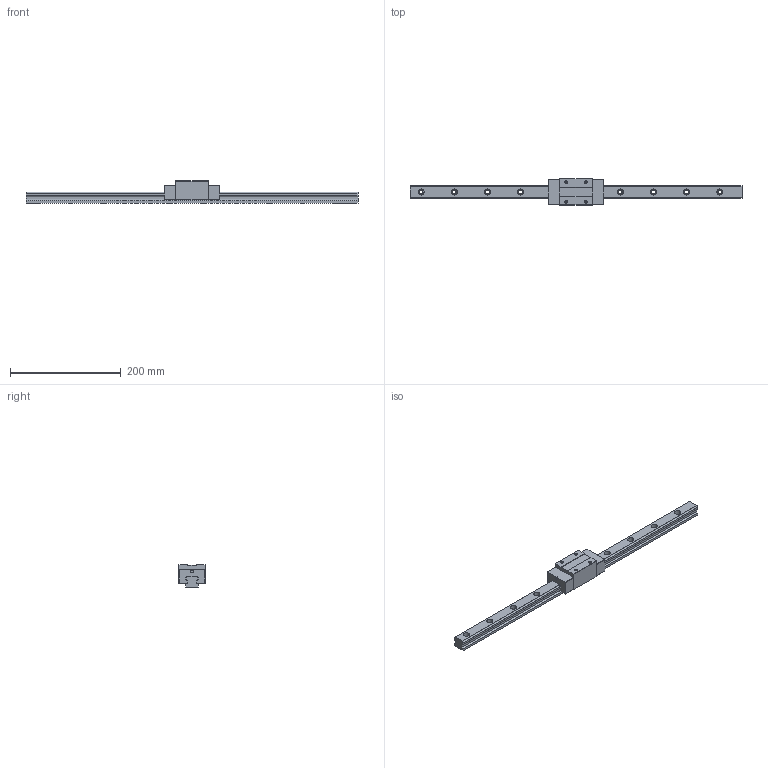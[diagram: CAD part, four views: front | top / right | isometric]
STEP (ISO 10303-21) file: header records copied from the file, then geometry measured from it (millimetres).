
FILE_DESCRIPTION (( 'STEP AP203' ), '1' );
FILE_NAME ('TRH25VN-WZ-§ï.STEP', '2023-08-29T07:14:29', ( '' ), ( '' ), 'SwSTEP 2.0', 'SolidWorks 2022', '' );
FILE_SCHEMA (( 'CONFIG_CONTROL_DESIGN' ));
Length unit declared in the file: millimetre
Products named in the file (1): TRH25VN-WZ-改
Bounding box: 600 x 48 x 40 mm (x, y, z)
Volume: 352517.9 mm3; surface area: 77252.3 mm2
Topology: 1 solids, 1 shells, 185 faces, 496 edges, 320 vertices
Faces by surface type: cylinder 88, plane 81, cone 16
Entity records: 5875 total; most frequent: DIRECTION 1044, CARTESIAN_POINT 994, ORIENTED_EDGE 976, EDGE_CURVE 488, AXIS2_PLACEMENT_3D 370, VERTEX_POINT 320, VECTOR 304, LINE 304
